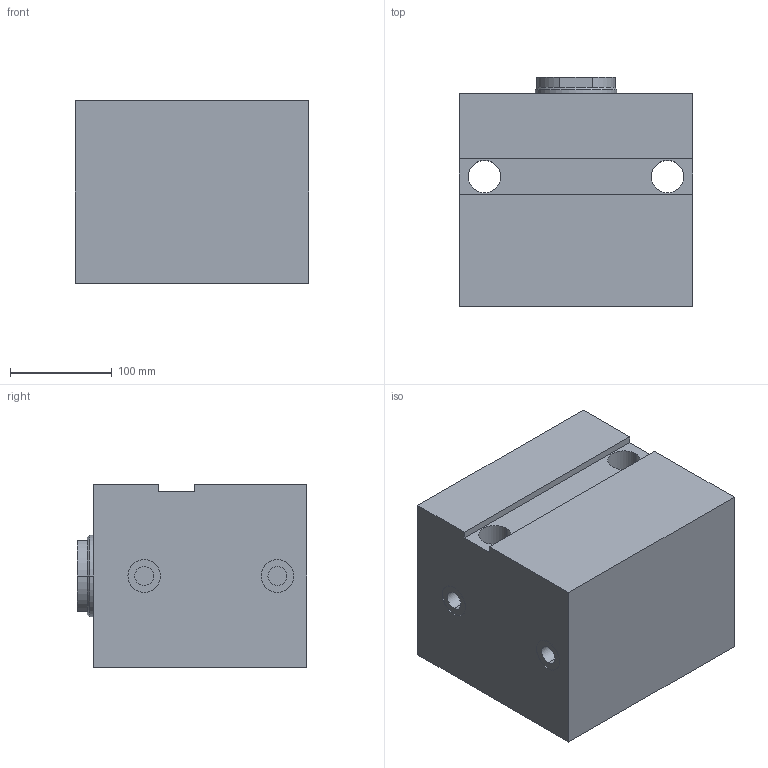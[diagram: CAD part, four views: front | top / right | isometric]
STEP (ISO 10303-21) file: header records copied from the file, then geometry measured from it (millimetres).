
FILE_DESCRIPTION (( 'STEP AP203' ), '1' );
FILE_NAME ('GERMA_Blockzylinder_602-125-100.STEP', '2015-10-09T16:49:40', ( '' ), ( '' ), 'SwSTEP 2.0', 'SolidWorks 2015', '' );
FILE_SCHEMA (( 'CONFIG_CONTROL_DESIGN' ));
Length unit declared in the file: millimetre
Products named in the file (3): GH-600-125_GH-602-125-100; Kolben 60x-125_Kolben DU.125-Hub100-IG; GERMA_Blockzylinder_602-125-100
Assembly tree (2 placements, depth 2):
  GERMA_Blockzylinder_602-125-100
    GH-600-125_GH-602-125-100
    Kolben 60x-125_Kolben DU.125-Hub100-IG
Bounding box: 230 x 226 x 180 mm (x, y, z)
Volume: 7569578.5 mm3; surface area: 461031.7 mm2
Topology: 2 solids, 2 shells, 73 faces, 160 edges, 98 vertices
Faces by surface type: cylinder 33, plane 26, cone 14
Entity records: 2286 total; most frequent: DIRECTION 387, CARTESIAN_POINT 330, ORIENTED_EDGE 308, AXIS2_PLACEMENT_3D 155, EDGE_CURVE 154, VERTEX_POINT 98, EDGE_LOOP 90, LINE 77
